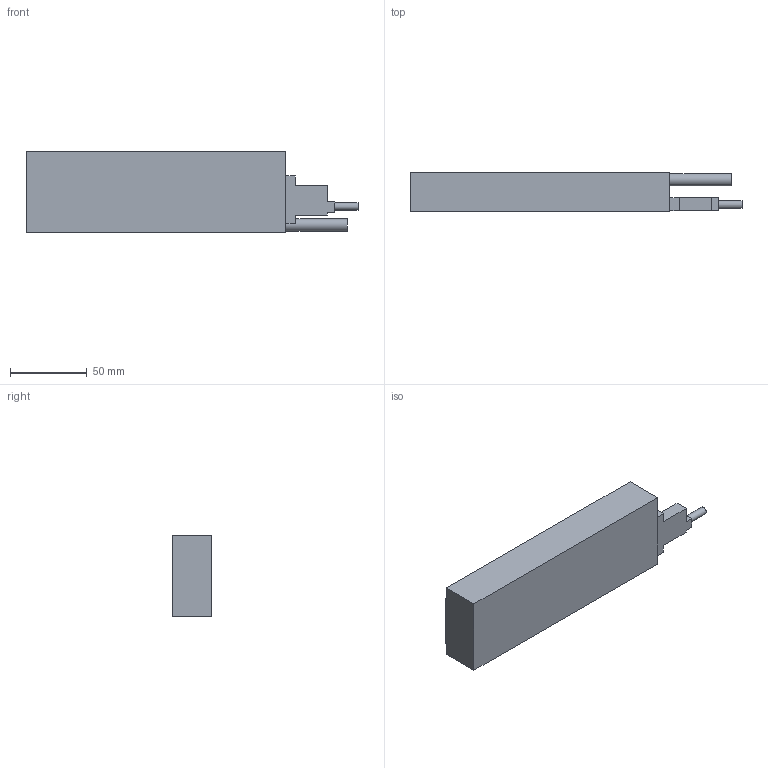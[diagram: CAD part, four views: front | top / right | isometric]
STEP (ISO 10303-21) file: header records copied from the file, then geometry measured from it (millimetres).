
FILE_DESCRIPTION(/* description */ ('STEP AP242 Edition 2','CAx-IF Rec.Pracs.---Representation and Presentation of Product Manufacturing Information (PMI)---4.0---2014-10-13','CAx-IF Rec.Pracs.---3D Tessellated Geometry---0.4---2014-09-14','2;1','CAx-IF Rec.Pracs.---User Defined Attributes---1.5---2016-08-15'),/* implementation_level */ '2;1');
FILE_NAME(/* name */ 'CS30S (1)',/* time_stamp */ '2026-04-13T00:50:24Z',/* author */ (''),/* organization */ (''),/* preprocessor_version */ 'ST-DEVELOPER v20',/* originating_system */ 'ONSHAPE BY PTC INC, 1.213',/* authorisation */ ' ');
FILE_SCHEMA (('AP242_MANAGED_MODEL_BASED_3D_ENGINEERING_MIM_LF { 1 0 10303 442 3 1 4 }'));
Length unit declared in the file: metre
Products named in the file (1): CS30S
Bounding box: 216.5 x 26 x 53 mm (x, y, z)
Volume: 237604.9 mm3; surface area: 34586.9 mm2
Topology: 1 solids, 2 shells, 82 faces, 204 edges, 131 vertices
Faces by surface type: plane 41, cylinder 27, cone 14
Full cylindrical faces by diameter (mm): 2.5 x2, 3.3 x12, 3.4 x2, 4.9 x2, 8 x1
Entity records: 2192 total; most frequent: DIRECTION 378, CARTESIAN_POINT 367, ORIENTED_EDGE 310, EDGE_CURVE 155, AXIS2_PLACEMENT_3D 140, FACE_BOUND 134, VERTEX_POINT 129, EDGE_LOOP 120
